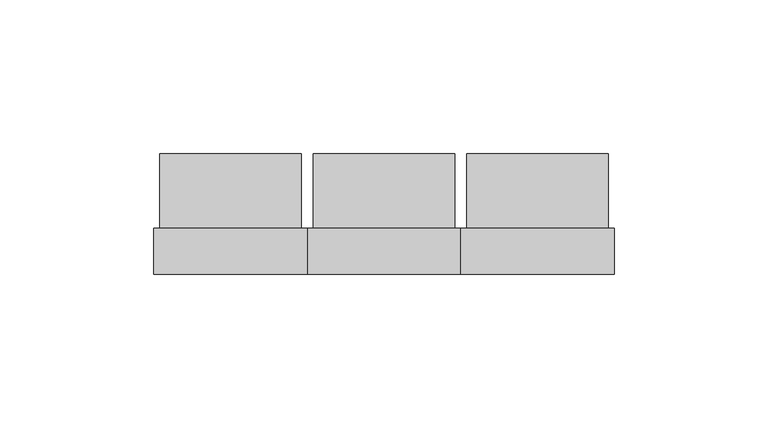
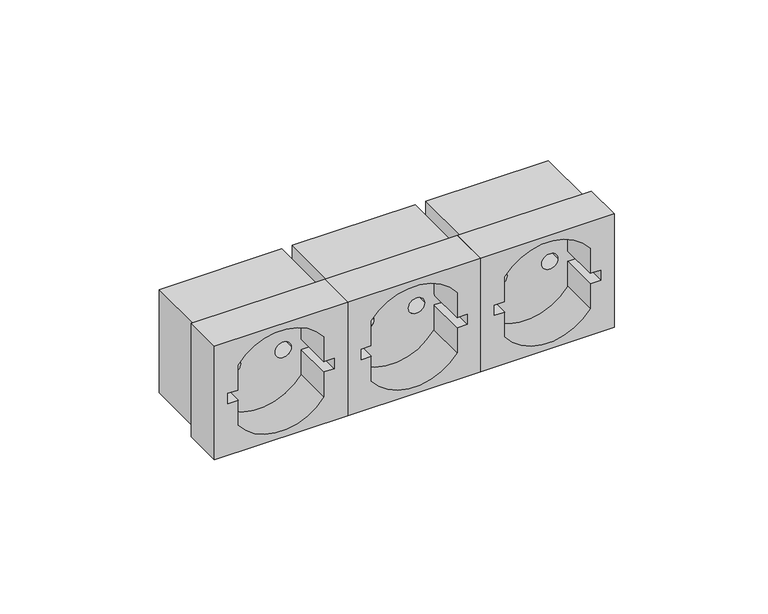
"""IFC4 building model written with IfcOpenShell, lengths in millimetres: proxy geometry, КНС_ЭлектрическиеРозеткиШтекерныеСЗаземлениемИСоШторкамиМоноблок_DKC : Белый."""

import ifcopenshell
import ifcopenshell.guid

model = None  # the IFC model being written
_history = None  # IfcOwnerHistory: only IFC2X3 demands one
_inside = {}  # id of a spatial element -> (the spatial element, [elements in it])
_under = {}  # id of a project, library or spatial element -> (it, [spatial elements below it])
_declared = {}  # id of a project -> (the project, [libraries it declares])
_typed = {}  # id of a type object -> (the type object, [elements of that type])
_made_of = {}  # id of a material, layer set ... -> (it, [elements and type objects made of it])


def new_model(schema):
    """Start an empty IFC model of exactly this schema.

    Asked for "IFC4X3", IfcOpenShell would pick the latest addendum, in which some entities
    have other attributes; the version numbers below select the first issue.
    IFC2X3 requires an IfcOwnerHistory on every rooted entity: one is made here for all.
    """
    global model, _history
    if schema == "IFC4X3":
        model = ifcopenshell.file(schema_version=(4, 3, 0, 0))
    else:
        model = ifcopenshell.file(schema=schema)
    _inside.clear()
    _under.clear()
    _declared.clear()
    _typed.clear()
    _made_of.clear()
    _history = None
    if model.schema == "IFC2X3":
        org = make("IfcOrganization", Name="unknown")
        user = make(
            "IfcPersonAndOrganization",
            ThePerson=make("IfcPerson", FamilyName="unknown"),
            TheOrganization=org,
        )
        app = make(
            "IfcApplication",
            ApplicationDeveloper=org,
            Version="unknown",
            ApplicationFullName="unknown",
            ApplicationIdentifier="unknown",
        )
        _history = make(
            "IfcOwnerHistory",
            OwningUser=user,
            OwningApplication=app,
            ChangeAction="ADDED",
            CreationDate=0,
        )
    return model


def make(cls, **values):
    """One entity of the class cls with the attributes given. An attribute that is None is left unset."""
    return model.create_entity(
        cls, **{name: value for name, value in values.items() if value is not None}
    )


def rooted(cls, **values):
    """An entity with a GlobalId (a new one), such as an element, a storey or a relation."""
    return make(cls, GlobalId=ifcopenshell.guid.new(), OwnerHistory=_history, **values)


def si_unit(unit_type, name, prefix=None):
    """IfcSIUnit, for example si_unit("LENGTHUNIT", "METRE", prefix="MILLI")."""
    return make("IfcSIUnit", UnitType=unit_type, Prefix=prefix, Name=name)


def assignment(units):
    """IfcUnitAssignment: the units of a project."""
    return None if units is None else make("IfcUnitAssignment", Units=units)


def point(xyz):
    """IfcCartesianPoint."""
    return None if xyz is None else make("IfcCartesianPoint", Coordinates=xyz)


def direction(xyz):
    """IfcDirection."""
    return None if xyz is None else make("IfcDirection", DirectionRatios=xyz)


def frame(location, z_axis=None, x_axis=None):
    """IfcAxis2Placement3D, a coordinate frame: its origin and axes. An axis left out is left unset."""
    return make(
        "IfcAxis2Placement3D",
        Location=point(location),
        Axis=direction(z_axis),
        RefDirection=direction(x_axis),
    )


def frame_2d(location, x_axis=None):
    """IfcAxis2Placement2D, a coordinate frame in the plane: its origin and x axis."""
    return make(
        "IfcAxis2Placement2D", Location=point(location), RefDirection=direction(x_axis)
    )


def origin():
    """The frame at (0, 0, 0) with its axes left unset."""
    return frame((0.0, 0.0, 0.0))


def place(relative_to, where):
    """IfcLocalPlacement: puts the frame where relative to a parent placement (None: the world)."""
    return make(
        "IfcLocalPlacement", PlacementRelTo=relative_to, RelativePlacement=where
    )


def context(
    kind, dimensions, precision=None, world=None, true_north=None, identifier=None
):
    """IfcGeometricRepresentationContext, for example the 3D "Model" context."""
    return make(
        "IfcGeometricRepresentationContext",
        ContextIdentifier=identifier,
        ContextType=kind,
        CoordinateSpaceDimension=dimensions,
        Precision=precision,
        WorldCoordinateSystem=world,
        TrueNorth=true_north,
    )


def project(units=None, contexts=None):
    """IfcProject with its units and contexts."""
    return rooted(
        "IfcProject",
        Name="project",
        RepresentationContexts=contexts,
        UnitsInContext=assignment(units),
    )


def spatial(cls, under=None, at=None, **own):
    """A site, building, storey or space (cls), placed at a placement, below another one or the project."""
    s = rooted(cls, ObjectPlacement=at, **own)
    if under is not None:
        _under.setdefault(under.id(), (under, []))[1].append(s)
    return s


def polyline(points):
    """IfcPolyline through the points."""
    return make("IfcPolyline", Points=[point(p) for p in points])


def circle_curve(where, radius):
    """IfcCircle in the frame where."""
    return make("IfcCircle", Position=where, Radius=radius)


def trimmed(basis, trim1, trim2, sense, master):
    """IfcTrimmedCurve: the piece of a basis curve between two trims."""
    return make(
        "IfcTrimmedCurve",
        BasisCurve=basis,
        Trim1=trim1,
        Trim2=trim2,
        SenseAgreement=sense,
        MasterRepresentation=master,
    )


def segment(curve, same_sense, transition):
    """IfcCompositeCurveSegment."""
    return make(
        "IfcCompositeCurveSegment",
        Transition=transition,
        SameSense=same_sense,
        ParentCurve=curve,
    )


def composite_curve(segments, self_intersect=None):
    """IfcCompositeCurve: segments joined end to end."""
    return make("IfcCompositeCurve", Segments=segments, SelfIntersect=self_intersect)


def outline(outer, holes=None, kind="AREA"):
    """IfcArbitraryClosedProfileDef: a profile drawn as a closed curve; with holes, ...WithVoids."""
    if holes is None:
        return make("IfcArbitraryClosedProfileDef", ProfileType=kind, OuterCurve=outer)
    return make(
        "IfcArbitraryProfileDefWithVoids",
        ProfileType=kind,
        OuterCurve=outer,
        InnerCurves=holes,
    )


def extrude(swept, where, along, depth):
    """IfcExtrudedAreaSolid: the profile swept, set in the frame where, extruded along a direction by depth."""
    return make(
        "IfcExtrudedAreaSolid",
        SweptArea=swept,
        Position=where,
        ExtrudedDirection=direction(along),
        Depth=depth,
    )


def shape(context_of_items, identifier, shape_type, items):
    """IfcShapeRepresentation: the items that make up one representation, for example the "Body"."""
    return make(
        "IfcShapeRepresentation",
        ContextOfItems=context_of_items,
        RepresentationIdentifier=identifier,
        RepresentationType=shape_type,
        Items=items,
    )


def source(mapping_origin, context_of_items, identifier, shape_type, items):
    """IfcRepresentationMap: a shape defined once, which mapped items show again and again."""
    return make(
        "IfcRepresentationMap",
        MappingOrigin=mapping_origin,
        MappedRepresentation=shape(context_of_items, identifier, shape_type, items),
    )


def transform(
    local_origin,
    x_axis=None,
    y_axis=None,
    z_axis=None,
    scale=None,
    scale2=None,
    scale3=None,
    uniform=True,
):
    """IfcCartesianTransformationOperator3D, or its non-uniform kind. x_axis, y_axis, z_axis: its Axis1, 2, 3."""
    if uniform:
        return make(
            "IfcCartesianTransformationOperator3D",
            Axis1=direction(x_axis),
            Axis2=direction(y_axis),
            LocalOrigin=point(local_origin),
            Scale=scale,
            Axis3=direction(z_axis),
        )
    return make(
        "IfcCartesianTransformationOperator3DnonUniform",
        Axis1=direction(x_axis),
        Axis2=direction(y_axis),
        LocalOrigin=point(local_origin),
        Scale=scale,
        Axis3=direction(z_axis),
        Scale2=scale2,
        Scale3=scale3,
    )


def mapped(mapping_source, mapping_target):
    """IfcMappedItem: shows the shape of a source again, moved by a transform."""
    return make(
        "IfcMappedItem", MappingSource=mapping_source, MappingTarget=mapping_target
    )


def made_of(thing, what):
    """Note that an element or type object is made of a material, layer set ...; save() writes the relation."""
    if what is not None:
        _made_of.setdefault(what.id(), (what, []))[1].append(thing)
    return thing


def element(
    cls,
    number,
    at=None,
    inside=None,
    cuts=None,
    type_object=None,
    material=None,
    context=None,
    identifier="Body",
    shape_type=None,
    held_by="IfcProductDefinitionShape",
    body=None,
    shapes=None,
    **own,
):
    """One element of the class cls, such as IfcWall. Its Tag is "e" and its number.

    at: its placement. inside: the storey or other place that contains it. cuts: it is an
    opening in that element (IfcRelVoidsElement). A single representation is given by context,
    identifier, shape_type and body (its items); several are given by shapes. held_by: the class
    of the entity that holds the representations. save() writes the other relations.
    """
    e = rooted(cls, Tag="e%d" % number, ObjectPlacement=at, **own)
    if body is not None:
        shapes = [shape(context, identifier, shape_type, body)]
    if shapes is not None:
        e.Representation = make(held_by, Representations=shapes)
    if inside is not None:
        _inside.setdefault(inside.id(), (inside, []))[1].append(e)
    if cuts is not None:
        rooted(
            "IfcRelVoidsElement", RelatingBuildingElement=cuts, RelatedOpeningElement=e
        )
    if type_object is not None:
        _typed.setdefault(type_object.id(), (type_object, []))[1].append(e)
    return made_of(e, material)


def aggregate(whole, parts):
    """IfcRelAggregates: a whole, such as a stair, and the parts it consists of."""
    return rooted("IfcRelAggregates", RelatingObject=whole, RelatedObjects=parts)


def save(model, path):
    """Write the relations noted so far, then the file.

    IfcRelAggregates (storeys below a building ...), IfcRelContainedInSpatialStructure (elements
    in a storey), IfcRelDefinesByType, IfcRelAssociatesMaterial and IfcRelDeclares: one each for
    every whole, place, type object, material and project.
    """
    for whole, parts in _under.values():
        aggregate(whole, parts)
    for where, things in _inside.values():
        rooted(
            "IfcRelContainedInSpatialStructure",
            RelatedElements=things,
            RelatingStructure=where,
        )
    for kind, things in _typed.values():
        rooted("IfcRelDefinesByType", RelatedObjects=things, RelatingType=kind)
    for what, things in _made_of.values():
        rooted("IfcRelAssociatesMaterial", RelatedObjects=things, RelatingMaterial=what)
    for by, libraries in _declared.values():
        rooted("IfcRelDeclares", RelatingContext=by, RelatedDefinitions=libraries)
    model.write(path)


def plane_surface(at):
    """IfcPlane: the flat surface through the origin of the frame at, square to its z axis."""
    return make("IfcPlane", Position=at)


def revolved_surface(curve, axis_point, axis_direction):
    """IfcSurfaceOfRevolution: the curve turned about the line through axis_point along axis_direction."""
    return make(
        "IfcSurfaceOfRevolution",
        SweptCurve=make("IfcArbitraryOpenProfileDef", ProfileType="CURVE", Curve=curve),
        AxisPosition=make("IfcAxis1Placement", Location=point(axis_point), Axis=direction(axis_direction)),
    )


def advanced_brep(points, edges, surfaces, faces):
    """IfcAdvancedBrep: a solid bounded by faces that lie on surfaces and meet in shared edges.

    An edge is (start, end): straight between two places in points (the first is 0);
    or (start, end, curve); or (start, end, curve, False) where it runs against its curve.
    A face is (place in surfaces, loops), or (place, loops, False) where it looks against
    its surface's normal. A loop lists edges by number (the first is 1), with a minus sign
    where the edge is run from its end to its start. The first loop is the outer one.
    """
    corners = [point(p) for p in points]
    vertices = [make("IfcVertexPoint", VertexGeometry=c) for c in corners]
    made = []
    for start, end, *more in edges:
        made.append(
            make(
                "IfcEdgeCurve",
                EdgeStart=vertices[start],
                EdgeEnd=vertices[end],
                EdgeGeometry=more[0] if more else make("IfcPolyline", Points=[corners[start], corners[end]]),
                SameSense=more[1] if len(more) > 1 else True,
            )
        )
    hull = []
    for where, loops, *sense in faces:
        bounds = []
        for j, loop in enumerate(loops):
            ring = [make("IfcOrientedEdge", EdgeElement=made[abs(k) - 1], Orientation=k > 0) for k in loop]
            bounds.append(
                make(
                    "IfcFaceOuterBound" if j == 0 else "IfcFaceBound",
                    Bound=make("IfcEdgeLoop", EdgeList=ring),
                    Orientation=True,
                )
            )
        hull.append(make("IfcAdvancedFace", Bounds=bounds, FaceSurface=surfaces[where], SameSense=sense[0] if sense else True))
    return make("IfcAdvancedBrep", Outer=make("IfcClosedShell", CfsFaces=hull))


def electrical_fixtures_3dbf6029(model_context):
    return source(origin(), model_context, "Body", "SolidModel", [
        advanced_brep(
        [(27.0, -24.3, 20.5), (27.0, -24.3, -20.5), (73.0, -24.3, -20.5), (73.0, -24.3, 20.5), (43.5102806, -24.3, 0.0), (37.4435414, -24.3, 0.0), (62.5564586, -24.3, 0.0), (56.4897194, -24.3, 0.0), (27.0, 0.0, 20.5), (73.0, 0.0, 20.5), (73.0, 0.0, -20.5), (27.0, 0.0, -20.5), (43.5102806, -10.5732864, 0.0), (37.4435414, -10.5732864, 0.0), (62.5564586, -10.5732864, 0.0), (56.4897194, -10.5732864, 0.0)],
        [
            (0, 1),
            (1, 2),
            (2, 3),
            (3, 0),
            (4, 5, circle_curve(frame((40.476911, -24.3, 0.0), z_axis=(0.0, 1.0, 0.0), x_axis=(-1.0, 0.0, 0.0)), 3.0333696)),
            (5, 4, circle_curve(frame((40.476911, -24.3, 0.0), z_axis=(0.0, 1.0, 0.0), x_axis=(-1.0, 0.0, 0.0)), 3.0333696)),
            (6, 7, circle_curve(frame((59.523089, -24.3, 0.0), z_axis=(0.0, 1.0, 0.0), x_axis=(-1.0, 0.0, 0.0)), 3.0333696)),
            (7, 6, circle_curve(frame((59.523089, -24.3, 0.0), z_axis=(0.0, 1.0, 0.0), x_axis=(-1.0, 0.0, 0.0)), 3.0333696)),
            (8, 9),
            (9, 10),
            (10, 11),
            (11, 8),
            (3, 9),
            (8, 0),
            (2, 10),
            (1, 11),
            (12, 13, circle_curve(frame((40.476911, -10.5732864, 0.0), z_axis=(0.0, -1.0, 0.0), x_axis=(-1.0, 0.0, 0.0)), 3.0333696)),
            (13, 12, circle_curve(frame((40.476911, -10.5732864, 0.0), z_axis=(0.0, -1.0, 0.0), x_axis=(-1.0, 0.0, 0.0)), 3.0333696)),
            (14, 15, circle_curve(frame((59.523089, -10.5732864, 0.0), z_axis=(0.0, -1.0, 0.0), x_axis=(-1.0, 0.0, 0.0)), 3.0333696)),
            (15, 14, circle_curve(frame((59.523089, -10.5732864, 0.0), z_axis=(0.0, -1.0, 0.0), x_axis=(-1.0, 0.0, 0.0)), 3.0333696)),
            (13, 5),
            (4, 12),
            (15, 7),
            (6, 14),
        ],
        [
            plane_surface(frame((27.0, -24.3, 20.5), z_axis=(0.0, -1.0, 0.0), x_axis=(0.0, 0.0, -1.0))),
            plane_surface(frame((27.0, 0.0, 20.5), z_axis=(0.0, 1.0, 0.0), x_axis=(0.0, 0.0, 1.0))),
            plane_surface(frame((73.0, -24.3, 20.5), z_axis=(0.0, 0.0, 1.0), x_axis=(0.0, 1.0, 0.0))),
            plane_surface(frame((73.0, -24.3, -20.5), z_axis=(1.0, 0.0, 0.0), x_axis=(0.0, 1.0, 0.0))),
            plane_surface(frame((27.0, -24.3, -20.5), z_axis=(0.0, 0.0, -1.0), x_axis=(0.0, 1.0, 0.0))),
            plane_surface(frame((27.0, -24.3, 20.5), z_axis=(-1.0, 0.0, 0.0), x_axis=(0.0, 1.0, 0.0))),
            plane_surface(frame((37.4435414, -10.5732864, 0.0), z_axis=(0.0, -1.0, 0.0), x_axis=(0.0, 0.0, 1.0))),
            revolved_surface(polyline([(37.4435414, -24.3, 0.0), (37.4435414, -10.5732864, 0.0)]), (40.476911, -10.5732864, 0.0), (0.0, -1.0, 0.0)),
            revolved_surface(polyline([(56.4897194, -24.3, 0.0), (56.4897194, -10.5732864, 0.0)]), (59.523089, 0.0, 0.0), (0.0, -1.0, 0.0)),
        ],
        [
            (0, [[1, 2, 3, 4], [5, 6], [7, 8]]),
            (1, [[9, 10, 11, 12]]),
            (2, [[-4, 13, -9, 14]]),
            (3, [[-3, 15, -10, -13]]),
            (4, [[-2, 16, -11, -15]]),
            (5, [[-1, -14, -12, -16]]),
            (6, [[17, 18]]),
            (6, [[19, 20]]),
            (7, [[-18, 21, -5, 22]]),
            (7, [[-17, -22, -6, -21]]),
            (8, [[-20, 23, -7, 24]]),
            (8, [[-19, -24, -8, -23]]),
        ],
    ),
        extrude(outline(polyline([(22.5, 25.0), (-22.5, 25.0), (-22.5, 75.0), (22.5, 75.0), (22.5, 25.0)]), holes=[composite_curve([segment(polyline([(11.9284729, 66.0533963), (2.0334595, 66.0533963), (2.0334595, 69.8963575)]), True, "CONTINUOUS"), segment(trimmed(circle_curve(frame_2d((0.0, 50.0)), 20.0), [point((2.0334595, 69.8963575))], [point((-2.0334595, 69.8963575))], True, "CARTESIAN"), True, "CONTINUOUS"), segment(polyline([(-2.0334595, 69.8963575), (-2.0334595, 66.0533963), (-11.9284729, 66.0533963)]), True, "CONTINUOUS"), segment(trimmed(circle_curve(frame_2d((0.0, 50.0)), 20.0), [point((-11.9284729, 66.0533963))], [point((-11.9284729, 33.9466037))], True, "CARTESIAN"), True, "CONTINUOUS"), segment(polyline([(-11.9284729, 33.9466037), (-2.0334595, 33.9466037), (-2.0334595, 30.1036425)]), True, "CONTINUOUS"), segment(trimmed(circle_curve(frame_2d((0.0, 50.0)), 20.0), [point((-2.0334595, 30.1036425))], [point((2.0334595, 30.1036425))], True, "CARTESIAN"), True, "CONTINUOUS"), segment(polyline([(2.0334595, 30.1036425), (2.0334595, 33.9466037), (11.9284729, 33.9466037)]), True, "CONTINUOUS"), segment(trimmed(circle_curve(frame_2d((0.0, 50.0)), 20.0), [point((11.9284729, 33.9466037))], [point((11.9284729, 66.0533963))], True, "CARTESIAN"), True, "CONTINUOUS")], self_intersect=False)]), frame((0.0, -39.3, 0.0), z_axis=(0.0, 1.0, 0.0), x_axis=(0.0, 0.0, 1.0)), (0.0, 0.0, 1.0), 15.0),
        advanced_brep(
        [(-27.0, -24.3, 20.5), (-73.0, -24.3, 20.5), (-73.0, -24.3, -20.5), (-27.0, -24.3, -20.5), (-37.4435414, -24.3, 0.0), (-43.5102806, -24.3, 0.0), (-56.4897194, -24.3, 0.0), (-62.5564586, -24.3, 0.0), (-27.0, 0.0, 20.5), (-27.0, 0.0, -20.5), (-73.0, 0.0, -20.5), (-73.0, 0.0, 20.5), (-43.5102806, -10.5732864, 0.0), (-37.4435414, -10.5732864, 0.0), (-62.5564586, -10.5732864, 0.0), (-56.4897194, -10.5732864, 0.0)],
        [
            (0, 1),
            (1, 2),
            (2, 3),
            (3, 0),
            (4, 5, circle_curve(frame((-40.476911, -24.3, 0.0), z_axis=(0.0, 1.0, 0.0), x_axis=(1.0, 0.0, 0.0)), 3.0333696)),
            (5, 4, circle_curve(frame((-40.476911, -24.3, 0.0), z_axis=(0.0, 1.0, 0.0), x_axis=(1.0, 0.0, 0.0)), 3.0333696)),
            (6, 7, circle_curve(frame((-59.523089, -24.3, 0.0), z_axis=(0.0, 1.0, 0.0), x_axis=(1.0, 0.0, 0.0)), 3.0333696)),
            (7, 6, circle_curve(frame((-59.523089, -24.3, 0.0), z_axis=(0.0, 1.0, 0.0), x_axis=(1.0, 0.0, 0.0)), 3.0333696)),
            (8, 9),
            (9, 10),
            (10, 11),
            (11, 8),
            (0, 8),
            (11, 1),
            (10, 2),
            (9, 3),
            (12, 13, circle_curve(frame((-40.476911, -10.5732864, 0.0), z_axis=(0.0, -1.0, 0.0), x_axis=(1.0, 0.0, 0.0)), 3.0333696)),
            (13, 12, circle_curve(frame((-40.476911, -10.5732864, 0.0), z_axis=(0.0, -1.0, 0.0), x_axis=(1.0, 0.0, 0.0)), 3.0333696)),
            (14, 15, circle_curve(frame((-59.523089, -10.5732864, 0.0), z_axis=(0.0, -1.0, 0.0), x_axis=(1.0, 0.0, 0.0)), 3.0333696)),
            (15, 14, circle_curve(frame((-59.523089, -10.5732864, 0.0), z_axis=(0.0, -1.0, 0.0), x_axis=(1.0, 0.0, 0.0)), 3.0333696)),
            (12, 5),
            (4, 13),
            (14, 7),
            (6, 15),
        ],
        [
            plane_surface(frame((-73.0, -24.3, 20.5), z_axis=(0.0, -1.0, 0.0), x_axis=(-1.0, 0.0, 0.0))),
            plane_surface(frame((-73.0, 0.0, 20.5), z_axis=(0.0, 1.0, 0.0), x_axis=(1.0, 0.0, 0.0))),
            plane_surface(frame((-27.0, -24.3, 20.5), z_axis=(0.0, 0.0, 1.0), x_axis=(0.0, 1.0, 0.0))),
            plane_surface(frame((-73.0, -24.3, 20.5), z_axis=(-1.0, 0.0, 0.0), x_axis=(0.0, 1.0, 0.0))),
            plane_surface(frame((-73.0, -24.3, -20.5), z_axis=(0.0, 0.0, -1.0), x_axis=(0.0, 1.0, 0.0))),
            plane_surface(frame((-27.0, -24.3, -20.5), z_axis=(1.0, 0.0, 0.0), x_axis=(0.0, 1.0, 0.0))),
            plane_surface(frame((-37.4435414, -10.5732864, 0.0), z_axis=(0.0, -1.0, 0.0), x_axis=(0.0, 0.0, -1.0))),
            revolved_surface(polyline([(-37.4435414, -24.3, 0.0), (-37.4435414, -10.5732864, 0.0)]), (-40.476911, -10.5732864, 0.0), (0.0, -1.0, 0.0)),
            revolved_surface(polyline([(-56.4897194, -24.3, 0.0), (-56.4897194, -10.5732864, 0.0)]), (-59.523089, 0.0, 0.0), (0.0, -1.0, 0.0)),
        ],
        [
            (0, [[1, 2, 3, 4], [5, 6], [7, 8]]),
            (1, [[9, 10, 11, 12]]),
            (2, [[-1, 13, -12, 14]]),
            (3, [[-2, -14, -11, 15]]),
            (4, [[-3, -15, -10, 16]]),
            (5, [[-4, -16, -9, -13]]),
            (6, [[17, 18]]),
            (6, [[19, 20]]),
            (7, [[-17, 21, -5, 22]]),
            (7, [[-18, -22, -6, -21]]),
            (8, [[-19, 23, -7, 24]]),
            (8, [[-20, -24, -8, -23]]),
        ],
    ),
        extrude(outline(polyline([(22.5, -25.0), (22.5, -75.0), (-22.5, -75.0), (-22.5, -25.0), (22.5, -25.0)]), holes=[composite_curve([segment(trimmed(circle_curve(frame_2d((0.0, -50.0)), 20.0), [point((11.9284729, -66.0533963))], [point((11.9284729, -33.9466037))], True, "CARTESIAN"), True, "CONTINUOUS"), segment(polyline([(11.9284729, -33.9466037), (2.0334595, -33.9466037), (2.0334595, -30.1036425)]), True, "CONTINUOUS"), segment(trimmed(circle_curve(frame_2d((0.0, -50.0)), 20.0), [point((2.0334595, -30.1036425))], [point((-2.0334595, -30.1036425))], True, "CARTESIAN"), True, "CONTINUOUS"), segment(polyline([(-2.0334595, -30.1036425), (-2.0334595, -33.9466037), (-11.9284729, -33.9466037)]), True, "CONTINUOUS"), segment(trimmed(circle_curve(frame_2d((0.0, -50.0)), 20.0), [point((-11.9284729, -33.9466037))], [point((-11.9284729, -66.0533963))], True, "CARTESIAN"), True, "CONTINUOUS"), segment(polyline([(-11.9284729, -66.0533963), (-2.0334595, -66.0533963), (-2.0334595, -69.8963575)]), True, "CONTINUOUS"), segment(trimmed(circle_curve(frame_2d((0.0, -50.0)), 20.0), [point((-2.0334595, -69.8963575))], [point((2.0334595, -69.8963575))], True, "CARTESIAN"), True, "CONTINUOUS"), segment(polyline([(2.0334595, -69.8963575), (2.0334595, -66.0533963), (11.9284729, -66.0533963)]), True, "CONTINUOUS")], self_intersect=False)]), frame((0.0, -39.3, 0.0), z_axis=(0.0, 1.0, 0.0), x_axis=(0.0, 0.0, 1.0)), (0.0, 0.0, 1.0), 15.0),
        advanced_brep(
        [(16.0533963, -24.3, 11.9284729), (-16.0533963, -24.3, 11.9284729), (-16.0533963, -24.3, 2.0334595), (-19.8963575, -24.3, 2.0334595), (-19.8963575, -24.3, -2.0334595), (-16.0533963, -24.3, -2.0334595), (-16.0533963, -24.3, -11.9284729), (16.0533963, -24.3, -11.9284729), (16.0533963, -24.3, -2.0334595), (19.8963575, -24.3, -2.0334595), (19.8963575, -24.3, 2.0334595), (16.0533963, -24.3, 2.0334595), (12.5564586, -24.3, 0.0), (6.4897194, -24.3, 0.0), (-6.4897194, -24.3, 0.0), (-12.5564586, -24.3, 0.0), (23.0, 0.0, 20.5), (23.0, 0.0, -20.5), (-23.0, 0.0, -20.5), (-23.0, 0.0, 20.5), (-23.0, -24.3, 20.5), (23.0, -24.3, 20.5), (-23.0, -24.3, -20.5), (23.0, -24.3, -20.5), (6.4897194, -10.5732864, 0.0), (12.5564586, -10.5732864, 0.0), (-12.5564586, -10.5732864, 0.0), (-6.4897194, -10.5732864, 0.0), (25.0, -39.3, 22.5), (-25.0, -39.3, 22.5), (-25.0, -39.3, -22.5), (25.0, -39.3, -22.5), (-16.0533963, -39.3, 11.9284729), (16.0533963, -39.3, 11.9284729), (16.0533963, -39.3, 2.0334595), (19.8963575, -39.3, 2.0334595), (19.8963575, -39.3, -2.0334595), (16.0533963, -39.3, -2.0334595), (16.0533963, -39.3, -11.9284729), (-16.0533963, -39.3, -11.9284729), (-16.0533963, -39.3, -2.0334595), (-19.8963575, -39.3, -2.0334595), (-19.8963575, -39.3, 2.0334595), (-16.0533963, -39.3, 2.0334595), (25.0, -24.3, 22.5), (25.0, -24.3, -22.5), (-25.0, -24.3, -22.5), (-25.0, -24.3, 22.5)],
        [
            (0, 1, circle_curve(frame((0.0, -24.3, 0.0), z_axis=(0.0, -1.0, 0.0), x_axis=(1.0, 0.0, 0.0)), 20.0)),
            (1, 2),
            (2, 3),
            (3, 4, circle_curve(frame((0.0, -24.3, 0.0), z_axis=(0.0, -1.0, 0.0), x_axis=(1.0, 0.0, 0.0)), 20.0)),
            (4, 5),
            (5, 6),
            (6, 7, circle_curve(frame((0.0, -24.3, 0.0), z_axis=(0.0, -1.0, 0.0), x_axis=(1.0, 0.0, 0.0)), 20.0)),
            (7, 8),
            (8, 9),
            (9, 10, circle_curve(frame((0.0, -24.3, 0.0), z_axis=(0.0, -1.0, 0.0), x_axis=(1.0, 0.0, 0.0)), 20.0)),
            (10, 11),
            (11, 0),
            (12, 13, circle_curve(frame((9.523089, -24.3, 0.0), z_axis=(0.0, 1.0, 0.0), x_axis=(1.0, 0.0, 0.0)), 3.0333696)),
            (13, 12, circle_curve(frame((9.523089, -24.3, 0.0), z_axis=(0.0, 1.0, 0.0), x_axis=(1.0, 0.0, 0.0)), 3.0333696)),
            (14, 15, circle_curve(frame((-9.523089, -24.3, 0.0), z_axis=(0.0, 1.0, 0.0), x_axis=(1.0, 0.0, 0.0)), 3.0333696)),
            (15, 14, circle_curve(frame((-9.523089, -24.3, 0.0), z_axis=(0.0, 1.0, 0.0), x_axis=(1.0, 0.0, 0.0)), 3.0333696)),
            (16, 17),
            (17, 18),
            (18, 19),
            (19, 16),
            (19, 20),
            (20, 21),
            (21, 16),
            (18, 22),
            (22, 20),
            (17, 23),
            (23, 22),
            (21, 23),
            (24, 25, circle_curve(frame((9.523089, -10.5732864, 0.0), z_axis=(0.0, -1.0, 0.0), x_axis=(1.0, 0.0, 0.0)), 3.0333696)),
            (25, 24, circle_curve(frame((9.523089, -10.5732864, 0.0), z_axis=(0.0, -1.0, 0.0), x_axis=(1.0, 0.0, 0.0)), 3.0333696)),
            (26, 27, circle_curve(frame((-9.523089, -10.5732864, 0.0), z_axis=(0.0, -1.0, 0.0), x_axis=(1.0, 0.0, 0.0)), 3.0333696)),
            (27, 26, circle_curve(frame((-9.523089, -10.5732864, 0.0), z_axis=(0.0, -1.0, 0.0), x_axis=(1.0, 0.0, 0.0)), 3.0333696)),
            (24, 13),
            (12, 25),
            (26, 15),
            (14, 27),
            (28, 29),
            (29, 30),
            (30, 31),
            (31, 28),
            (32, 33, circle_curve(frame((0.0, -39.3, 0.0), z_axis=(0.0, 1.0, 0.0), x_axis=(1.0, 0.0, 0.0)), 20.0)),
            (33, 34),
            (34, 35),
            (35, 36, circle_curve(frame((0.0, -39.3, 0.0), z_axis=(0.0, 1.0, 0.0), x_axis=(1.0, 0.0, 0.0)), 20.0)),
            (36, 37),
            (37, 38),
            (38, 39, circle_curve(frame((0.0, -39.3, 0.0), z_axis=(0.0, 1.0, 0.0), x_axis=(1.0, 0.0, 0.0)), 20.0)),
            (39, 40),
            (40, 41),
            (41, 42, circle_curve(frame((0.0, -39.3, 0.0), z_axis=(0.0, 1.0, 0.0), x_axis=(1.0, 0.0, 0.0)), 20.0)),
            (42, 43),
            (43, 32),
            (44, 45),
            (45, 46),
            (46, 47),
            (47, 44),
            (28, 44),
            (47, 29),
            (46, 30),
            (45, 31),
            (32, 1),
            (0, 33),
            (11, 34),
            (10, 35),
            (9, 36),
            (8, 37),
            (7, 38),
            (6, 39),
            (5, 40),
            (4, 41),
            (3, 42),
            (2, 43),
        ],
        [
            plane_surface(frame((-23.0, -24.3, 20.5), z_axis=(0.0, -1.0, 0.0), x_axis=(-1.0, 0.0, 0.0))),
            plane_surface(frame((-23.0, 0.0, 20.5), z_axis=(0.0, 1.0, 0.0), x_axis=(1.0, 0.0, 0.0))),
            plane_surface(frame((23.0, -24.3, 20.5), z_axis=(0.0, 0.0, 1.0), x_axis=(0.0, 1.0, 0.0))),
            plane_surface(frame((-23.0, -24.3, 20.5), z_axis=(-1.0, 0.0, 0.0), x_axis=(0.0, 1.0, 0.0))),
            plane_surface(frame((-23.0, -24.3, -20.5), z_axis=(0.0, 0.0, -1.0), x_axis=(0.0, 1.0, 0.0))),
            plane_surface(frame((23.0, -24.3, -20.5), z_axis=(1.0, 0.0, 0.0), x_axis=(0.0, 1.0, 0.0))),
            plane_surface(frame((12.5564586, -10.5732864, 0.0), z_axis=(0.0, -1.0, 0.0), x_axis=(0.0, 0.0, -1.0))),
            revolved_surface(polyline([(12.556458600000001, -24.3, 0.0), (12.556458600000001, -10.5732864, 0.0)]), (9.523089, -10.5732864, 0.0), (0.0, -1.0, 0.0)),
            revolved_surface(polyline([(-6.4897194, -24.3, 0.0), (-6.4897194, -10.5732864, 0.0)]), (-9.523089, 0.0, 0.0), (0.0, -1.0, 0.0)),
            plane_surface(frame((-25.0, -39.3, 22.5), z_axis=(0.0, -1.0, 0.0), x_axis=(-1.0, 0.0, 0.0))),
            plane_surface(frame((-25.0, -24.3, 22.5), z_axis=(0.0, 1.0, 0.0), x_axis=(1.0, 0.0, 0.0))),
            plane_surface(frame((25.0, -39.3, 22.5), z_axis=(0.0, 0.0, 1.0), x_axis=(0.0, 1.0, 0.0))),
            plane_surface(frame((-25.0, -39.3, 22.5), z_axis=(-1.0, 0.0, 0.0), x_axis=(0.0, 1.0, 0.0))),
            plane_surface(frame((-25.0, -39.3, -22.5), z_axis=(0.0, 0.0, -1.0), x_axis=(0.0, 1.0, 0.0))),
            plane_surface(frame((25.0, -39.3, -22.5), z_axis=(1.0, 0.0, 0.0), x_axis=(0.0, 1.0, 0.0))),
            revolved_surface(polyline([(20.0, -24.3, 0.0), (20.0, -39.3, 0.0)]), (0.0, 0.0, 0.0), (0.0, 1.0, 0.0)),
            plane_surface(frame((16.0533963, -39.3, 11.9284729), z_axis=(-1.0, 0.0, 0.0), x_axis=(0.0, 1.0, 0.0))),
            plane_surface(frame((16.0533963, -39.3, 2.0334595), z_axis=(0.0, 0.0, -1.0), x_axis=(0.0, 1.0, 0.0))),
            plane_surface(frame((19.8963575, -39.3, -2.0334595), z_axis=(0.0, 0.0, 1.0), x_axis=(0.0, 1.0, 0.0))),
            plane_surface(frame((16.0533963, -39.3, -2.0334595), z_axis=(-1.0, 0.0, 0.0), x_axis=(0.0, 1.0, 0.0))),
            plane_surface(frame((-16.0533963, -39.3, -11.9284729), z_axis=(1.0, 0.0, 0.0), x_axis=(0.0, 1.0, 0.0))),
            plane_surface(frame((-16.0533963, -39.3, -2.0334595), z_axis=(0.0, 0.0, 1.0), x_axis=(0.0, 1.0, 0.0))),
            plane_surface(frame((-19.8963575, -39.3, 2.0334595), z_axis=(0.0, 0.0, -1.0), x_axis=(0.0, 1.0, 0.0))),
            plane_surface(frame((-16.0533963, -39.3, 2.0334595), z_axis=(1.0, 0.0, 0.0), x_axis=(0.0, 1.0, 0.0))),
        ],
        [
            (0, [[1, 2, 3, 4, 5, 6, 7, 8, 9, 10, 11, 12], [13, 14], [15, 16]]),
            (1, [[17, 18, 19, 20]]),
            (2, [[-20, 21, 22, 23]]),
            (3, [[-19, 24, 25, -21]]),
            (4, [[-18, 26, 27, -24]]),
            (5, [[-17, -23, 28, -26]]),
            (6, [[29, 30]]),
            (6, [[31, 32]]),
            (7, [[-29, 33, -13, 34]]),
            (7, [[-30, -34, -14, -33]]),
            (8, [[-31, 35, -15, 36]]),
            (8, [[-32, -36, -16, -35]]),
            (9, [[37, 38, 39, 40], [41, 42, 43, 44, 45, 46, 47, 48, 49, 50, 51, 52]]),
            (10, [[53, 54, 55, 56], [-22, -25, -27, -28]]),
            (11, [[-37, 57, -56, 58]]),
            (12, [[-38, -58, -55, 59]]),
            (13, [[-39, -59, -54, 60]]),
            (14, [[-40, -60, -53, -57]]),
            (15, [[-41, 61, -1, 62]]),
            (16, [[-42, -62, -12, 63]]),
            (17, [[-43, -63, -11, 64]]),
            (15, [[-44, -64, -10, 65]]),
            (18, [[-45, -65, -9, 66]]),
            (19, [[-46, -66, -8, 67]]),
            (15, [[-47, -67, -7, 68]]),
            (20, [[-48, -68, -6, 69]]),
            (21, [[-49, -69, -5, 70]]),
            (15, [[-50, -70, -4, 71]]),
            (22, [[-51, -71, -3, 72]]),
            (23, [[-52, -72, -2, -61]]),
        ],
    ),
    ])


if __name__ == "__main__":
    model = new_model("IFC4")
    model_context = context("Model", 3, world=origin())
    ifc_project = project(units=[si_unit("LENGTHUNIT", "METRE", prefix="MILLI")], contexts=[model_context])
    site = spatial("IfcSite", under=ifc_project)
    building = spatial("IfcBuilding", under=site)
    placement = place(None, origin())
    electrical_fixtures_shape = electrical_fixtures_3dbf6029(model_context)
    element("IfcBuildingElementProxy", 1, Name="КНС_ЭлектрическиеРозеткиШтекерныеСЗаземлениемИСоШторкамиМоноблок_DKC : Белый", ObjectType="КНС_ЭлектрическиеРозеткиШтекерныеСЗаземлениемИСоШторкамиМоноблок_DKC : Белый", at=placement, inside=building, context=model_context, shape_type="MappedRepresentation", body=[
        mapped(electrical_fixtures_shape, transform((0.0, 0.0, 0.0), x_axis=(1.0, 0.0, 0.0), y_axis=(0.0, 1.0, 0.0), z_axis=(0.0, 0.0, 1.0))),
    ])
    save(model, "model.ifc")
